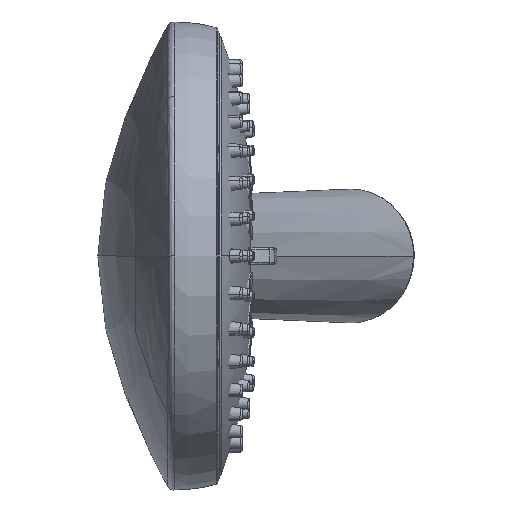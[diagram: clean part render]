
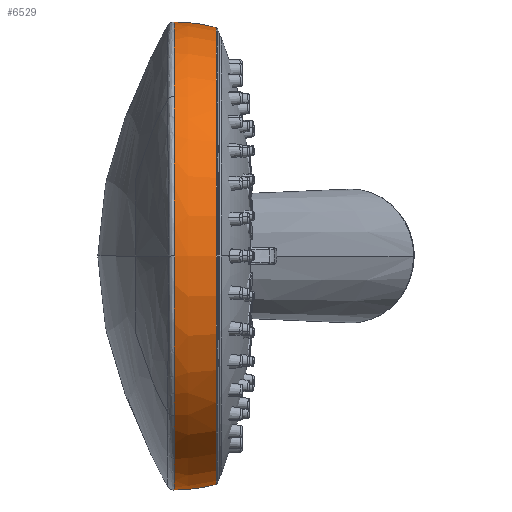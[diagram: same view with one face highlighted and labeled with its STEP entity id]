
A CAD part, left-side view. The second image highlights one B-rep face of the part: STEP entity #6529.
In plain terms, the highlighted face is a revolution surface.
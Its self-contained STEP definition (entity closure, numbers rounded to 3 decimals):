
#886=CARTESIAN_POINT('',(0.,0.827,49.473));
#888=CARTESIAN_POINT('',(0.,0.827,49.473));
#889=CARTESIAN_POINT('',(0.,2.403,49.969));
#890=CARTESIAN_POINT('',(0.,5.422,50.507));
#891=CARTESIAN_POINT('',(0.,8.501,50.673));
#892=CARTESIAN_POINT('',(0.,9.948,50.694));
#956=CARTESIAN_POINT('',(0.,0.827,0.));
#957=DIRECTION('',(0.,-1.,0.));
#958=DIRECTION('',(0.,0.,1.));
#959=AXIS2_PLACEMENT_3D('',#956,#957,#958);
#961=CARTESIAN_POINT('',(0.,0.827,
-49.473));
#962=CARTESIAN_POINT('',(0.,1.577,-49.709));
#963=CARTESIAN_POINT('',(0.,3.169,
-50.1));
#964=CARTESIAN_POINT('',(0.,5.633,
-50.467));
#965=CARTESIAN_POINT('',(0.,7.923,-50.641));
#966=CARTESIAN_POINT('',(0.,9.366,
-50.685));
#967=CARTESIAN_POINT('',(0.,9.948,
-50.694));
#969=CARTESIAN_POINT('',(0.,9.948,
-50.694));
#970=CARTESIAN_POINT('',(-1.518,9.943,-50.694));
#971=CARTESIAN_POINT('',(-4.546,9.937,-50.557));
#972=CARTESIAN_POINT('',(-9.03,9.935,-49.952));
#973=CARTESIAN_POINT('',(-13.415,9.936,-48.949));
#974=CARTESIAN_POINT('',(-16.998,9.94,-47.789));
#975=CARTESIAN_POINT('',(-19.501,9.941,-46.832));
#976=CARTESIAN_POINT('',(-22.936,9.942,-45.251));
#977=CARTESIAN_POINT('',(-25.194,9.942,-44.009));
#978=CARTESIAN_POINT('',(-27.389,9.941,-42.689));
#979=CARTESIAN_POINT('',(-30.113,9.939,-40.839));
#980=CARTESIAN_POINT('',(-33.461,9.935,-38.176));
#981=CARTESIAN_POINT('',(-35.871,9.93,-35.866));
#982=CARTESIAN_POINT('',(-37.099,9.927,-34.547));
#984=CARTESIAN_POINT('',(-50.692,9.82,0.));
#985=CARTESIAN_POINT('',(-50.692,9.82,0.127));
#986=CARTESIAN_POINT('',(-50.689,9.823,0.522));
#987=CARTESIAN_POINT('',(-50.683,9.837,1.261));
#988=CARTESIAN_POINT('',(-50.611,9.854,2.958));
#989=CARTESIAN_POINT('',(-50.58,9.855,3.387));
#990=CARTESIAN_POINT('',(-50.509,9.86,4.353));
#991=CARTESIAN_POINT('',(-50.415,9.864,5.343));
#992=CARTESIAN_POINT('',(-50.256,9.868,6.67));
#993=CARTESIAN_POINT('',(-50.146,9.869,7.442));
#994=CARTESIAN_POINT('',(-49.957,9.872,8.635));
#995=CARTESIAN_POINT('',(-49.684,9.876,10.13));
#996=CARTESIAN_POINT('',(-49.207,9.88,12.226));
#997=CARTESIAN_POINT('',(-48.884,9.883,13.442));
#998=CARTESIAN_POINT('',(-48.33,9.886,15.37));
#999=CARTESIAN_POINT('',(-47.398,9.892,18.043));
#1000=CARTESIAN_POINT('',(-46.517,9.896,20.187));
#1001=CARTESIAN_POINT('',(-45.46,9.901,22.507));
#1002=CARTESIAN_POINT('',(-43.844,9.907,25.504));
#1003=CARTESIAN_POINT('',(-42.519,9.912,27.651));
#1004=CARTESIAN_POINT('',(-40.419,9.919,30.698));
#1005=CARTESIAN_POINT('',(-38.343,9.924,33.211));
#1006=CARTESIAN_POINT('',(-37.099,9.927,34.547));
#1516=CARTESIAN_POINT('',(-50.692,9.82,
0.));
#1517=CARTESIAN_POINT('',(-50.692,9.817,
-0.129));
#1518=CARTESIAN_POINT('',(-50.689,9.825,
-0.522));
#1519=CARTESIAN_POINT('',(-50.683,9.837,
-1.268));
#1520=CARTESIAN_POINT('',(-50.611,9.854,
-2.961));
#1521=CARTESIAN_POINT('',(-50.579,9.855,
-3.393));
#1522=CARTESIAN_POINT('',(-50.508,9.86,
-4.359));
#1523=CARTESIAN_POINT('',(-50.414,9.864,
-5.351));
#1524=CARTESIAN_POINT('',(-50.255,9.868,
-6.675));
#1525=CARTESIAN_POINT('',(-50.145,9.87,
-7.449));
#1526=CARTESIAN_POINT('',(-49.956,9.872,
-8.643));
#1527=CARTESIAN_POINT('',(-49.681,9.876,
-10.142));
#1528=CARTESIAN_POINT('',(-49.206,9.88,
-12.232));
#1529=CARTESIAN_POINT('',(-48.881,9.883,
-13.452));
#1530=CARTESIAN_POINT('',(-48.326,9.886,
-15.382));
#1531=CARTESIAN_POINT('',(-47.394,9.892,
-18.053));
#1532=CARTESIAN_POINT('',(-46.513,9.896,
-20.196));
#1533=CARTESIAN_POINT('',(-45.455,9.901,
-22.518));
#1534=CARTESIAN_POINT('',(-43.841,9.907,
-25.51));
#1535=CARTESIAN_POINT('',(-42.515,9.912,
-27.658));
#1536=CARTESIAN_POINT('',(-40.415,9.919,
-30.702));
#1537=CARTESIAN_POINT('',(-38.341,9.924,
-33.213));
#1538=CARTESIAN_POINT('',(-37.099,9.927,
-34.547));
#1690=CARTESIAN_POINT('',(0.,9.948,
50.694));
#1691=CARTESIAN_POINT('',(-1.517,9.944,50.694));
#1692=CARTESIAN_POINT('',(-4.544,9.936,50.557));
#1693=CARTESIAN_POINT('',(-9.026,9.935,49.953));
#1694=CARTESIAN_POINT('',(-13.41,9.936,48.95));
#1695=CARTESIAN_POINT('',(-16.995,9.94,47.79));
#1696=CARTESIAN_POINT('',(-19.498,9.941,46.833));
#1697=CARTESIAN_POINT('',(-22.933,9.942,45.252));
#1698=CARTESIAN_POINT('',(-25.194,9.942,44.009));
#1699=CARTESIAN_POINT('',(-27.389,9.941,42.69));
#1700=CARTESIAN_POINT('',(-30.113,9.939,40.839));
#1701=CARTESIAN_POINT('',(-33.461,9.935,38.176));
#1702=CARTESIAN_POINT('',(-35.871,9.93,35.866));
#1703=CARTESIAN_POINT('',(-37.099,9.927,34.547));
#1889=VERTEX_POINT('',#886);
#1891=VERTEX_POINT('',#892);
#1892=CARTESIAN_POINT('',(0.,0.827,
-49.473));
#1893=VERTEX_POINT('',#1892);
#1894=VERTEX_POINT('',#967);
#1895=VERTEX_POINT('',#982);
#1896=VERTEX_POINT('',#1516);
#1897=VERTEX_POINT('',#1006);
#6500=CARTESIAN_POINT('',(-50.695,10.04,0.));
#6501=CARTESIAN_POINT('',(-50.695,10.009,0.));
#6502=CARTESIAN_POINT('',(-50.686,9.397,0.));
#6503=CARTESIAN_POINT('',(-50.641,7.923,0.));
#6504=CARTESIAN_POINT('',(-50.467,5.633,0.));
#6505=CARTESIAN_POINT('',(-50.1,3.169,0.));
#6506=CARTESIAN_POINT('',(-49.702,1.547,0.));
#6507=CARTESIAN_POINT('',(-49.454,0.768,0.));
#6508=CARTESIAN_POINT('',(-49.445,0.739,0.));
#6510=CARTESIAN_POINT('',(0.,0.,0.));
#6511=DIRECTION('',(0.,1.,0.));
#6512=AXIS1_PLACEMENT('',#6510,#6511);
#6513=SURFACE_OF_REVOLUTION('',#6509,#6512);
#6515=ORIENTED_EDGE('',*,*,#6514,.T.);
#6517=ORIENTED_EDGE('',*,*,#6516,.T.);
#6519=ORIENTED_EDGE('',*,*,#6518,.T.);
#6521=ORIENTED_EDGE('',*,*,#6520,.F.);
#6523=ORIENTED_EDGE('',*,*,#6522,.T.);
#6525=ORIENTED_EDGE('',*,*,#6524,.F.);
#6526=ORIENTED_EDGE('',*,*,#6492,.F.);
#6527=EDGE_LOOP('',(#6515,#6517,#6519,#6521,#6523,#6525,#6526));
#6528=FACE_OUTER_BOUND('',#6527,.F.);
#6529=ADVANCED_FACE('',(#6528),#6513,.F.);
#893=B_SPLINE_CURVE_WITH_KNOTS('',3,(#888,#889,#890,#891,#892),.UNSPECIFIED.,
.F.,.F.,(4,1,4),(0.,0.533,1.),.UNSPECIFIED.);
#960=CIRCLE('',#959,49.473);
#968=B_SPLINE_CURVE_WITH_KNOTS('',3,(#961,#962,#963,#964,#965,#966,#967),
.UNSPECIFIED.,.F.,.F.,(4,1,1,1,4),(0.,0.254,0.533,
0.812,1.),.UNSPECIFIED.);
#983=B_SPLINE_CURVE_WITH_KNOTS('',3,(#969,#970,#971,#972,#973,#974,#975,#976,
#977,#978,#979,#980,#981,#982),.UNSPECIFIED.,.F.,.F.,(4,1,1,1,1,1,1,1,1,1,1,4),(
0.,0.091,0.182,0.273,0.364,
0.455,0.545,0.636,0.727,
0.818,0.909,1.),.UNSPECIFIED.);
#1007=B_SPLINE_CURVE_WITH_KNOTS('',3,(#984,#985,#986,#987,#988,#989,#990,#991,
#992,#993,#994,#995,#996,#997,#998,#999,#1000,#1001,#1002,#1003,#1004,#1005,
#1006),.UNSPECIFIED.,.F.,.F.,(4,1,1,1,1,1,1,1,1,1,1,1,1,1,1,1,1,1,1,1,4),(0.,
0.05,0.1,0.15,0.2,0.25,0.3,0.35,0.4,0.45,0.5,0.55,0.6,
0.65,0.7,0.75,0.8,0.85,0.9,0.95,1.),.UNSPECIFIED.);
#1539=B_SPLINE_CURVE_WITH_KNOTS('',3,(#1516,#1517,#1518,#1519,#1520,#1521,#1522,
#1523,#1524,#1525,#1526,#1527,#1528,#1529,#1530,#1531,#1532,#1533,#1534,#1535,
#1536,#1537,#1538),.UNSPECIFIED.,.F.,.F.,(4,1,1,1,1,1,1,1,1,1,1,1,1,1,1,1,1,1,1,
1,4),(0.,0.05,0.1,0.15,0.2,0.25,0.3,0.35,0.4,0.45,0.5,
0.55,0.6,0.65,0.7,0.75,0.8,0.85,0.9,0.95,1.),.UNSPECIFIED.);
#1704=B_SPLINE_CURVE_WITH_KNOTS('',3,(#1690,#1691,#1692,#1693,#1694,#1695,#1696,
#1697,#1698,#1699,#1700,#1701,#1702,#1703),.UNSPECIFIED.,.F.,.F.,(4,1,1,1,1,1,1,
1,1,1,1,4),(0.,0.091,0.182,0.273,
0.364,0.455,0.545,0.636,
0.727,0.818,0.909,1.),.UNSPECIFIED.);
#6492=EDGE_CURVE('',#1889,#1891,#893,.T.);
#6509=B_SPLINE_CURVE_WITH_KNOTS('',3,(#6500,#6501,#6502,#6503,#6504,#6505,#6506,
#6507,#6508),.UNSPECIFIED.,.F.,.F.,(4,1,1,1,1,1,4),(0.,0.01,
0.194,0.468,0.742,0.99,1.),
.UNSPECIFIED.);
#6514=EDGE_CURVE('',#1889,#1893,#960,.T.);
#6516=EDGE_CURVE('',#1893,#1894,#968,.T.);
#6518=EDGE_CURVE('',#1894,#1895,#983,.T.);
#6520=EDGE_CURVE('',#1896,#1895,#1539,.T.);
#6522=EDGE_CURVE('',#1896,#1897,#1007,.T.);
#6524=EDGE_CURVE('',#1891,#1897,#1704,.T.);
